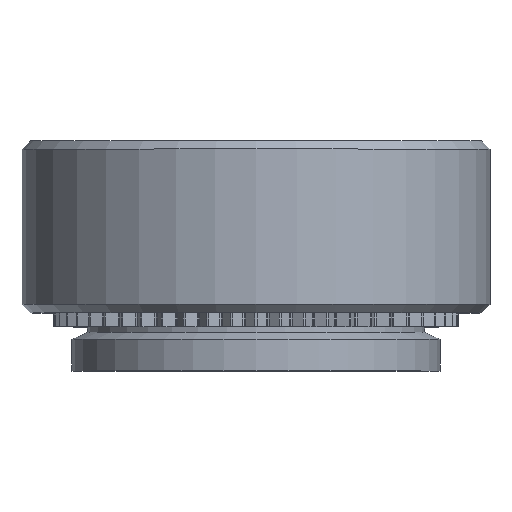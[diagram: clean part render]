
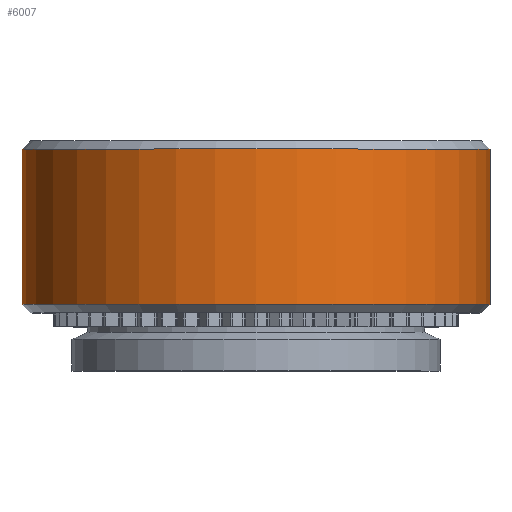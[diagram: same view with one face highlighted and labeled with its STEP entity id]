
A CAD part, top view. The second image highlights one B-rep face of the part: STEP entity #6007.
In plain terms, the highlighted cylindrical face has radius 5.55 mm (diameter 11.1 mm), a full revolution.
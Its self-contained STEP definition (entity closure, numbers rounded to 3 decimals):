
#127=CYLINDRICAL_SURFACE('',#6358,5.55);
#340=FACE_OUTER_BOUND('',#665,.T.);
#665=EDGE_LOOP('',(#4086,#4087,#4088,#4089,#4090,#4091));
#994=LINE('',#9167,#1523);
#1523=VECTOR('',#7127,5.55);
#2051=CIRCLE('',#6355,5.55);
#2052=CIRCLE('',#6356,5.55);
#2054=CIRCLE('',#6359,5.55);
#2055=CIRCLE('',#6360,5.55);
#2482=VERTEX_POINT('',#9155);
#2483=VERTEX_POINT('',#9156);
#2485=VERTEX_POINT('',#9163);
#2486=VERTEX_POINT('',#9164);
#3121=EDGE_CURVE('',#2482,#2483,#2051,.T.);
#3122=EDGE_CURVE('',#2483,#2482,#2052,.T.);
#3125=EDGE_CURVE('',#2485,#2486,#2054,.T.);
#3126=EDGE_CURVE('',#2486,#2485,#2055,.T.);
#3127=EDGE_CURVE('',#2486,#2483,#994,.T.);
#4086=ORIENTED_EDGE('',*,*,#3125,.F.);
#4087=ORIENTED_EDGE('',*,*,#3126,.F.);
#4088=ORIENTED_EDGE('',*,*,#3127,.T.);
#4089=ORIENTED_EDGE('',*,*,#3121,.F.);
#4090=ORIENTED_EDGE('',*,*,#3122,.F.);
#4091=ORIENTED_EDGE('',*,*,#3127,.F.);
#6007=ADVANCED_FACE('',(#340),#127,.T.);
#6355=AXIS2_PLACEMENT_3D('',#9157,#7114,#7115);
#6356=AXIS2_PLACEMENT_3D('',#9158,#7116,#7117);
#6358=AXIS2_PLACEMENT_3D('',#9162,#7121,#7122);
#6359=AXIS2_PLACEMENT_3D('',#9165,#7123,#7124);
#6360=AXIS2_PLACEMENT_3D('',#9166,#7125,#7126);
#7114=DIRECTION('center_axis',(0.,-1.,0.));
#7115=DIRECTION('ref_axis',(1.,0.,0.));
#7116=DIRECTION('center_axis',(0.,-1.,0.));
#7117=DIRECTION('ref_axis',(1.,0.,0.));
#7121=DIRECTION('center_axis',(0.,1.,0.));
#7122=DIRECTION('ref_axis',(-1.,0.,0.));
#7123=DIRECTION('center_axis',(0.,1.,0.));
#7124=DIRECTION('ref_axis',(1.,0.,0.));
#7125=DIRECTION('center_axis',(0.,1.,0.));
#7126=DIRECTION('ref_axis',(1.,0.,0.));
#7127=DIRECTION('',(0.,-1.,0.));
#9155=CARTESIAN_POINT('',(-5.55,1.58,0.));
#9156=CARTESIAN_POINT('',(5.55,1.58,0.));
#9157=CARTESIAN_POINT('Origin',(0.,1.58,0.));
#9158=CARTESIAN_POINT('Origin',(0.,1.58,0.));
#9162=CARTESIAN_POINT('Origin',(0.,3.42,0.));
#9163=CARTESIAN_POINT('',(-5.55,5.26,0.));
#9164=CARTESIAN_POINT('',(5.55,5.26,0.));
#9165=CARTESIAN_POINT('Origin',(0.,5.26,0.));
#9166=CARTESIAN_POINT('Origin',(0.,5.26,0.));
#9167=CARTESIAN_POINT('',(5.55,3.42,0.));
